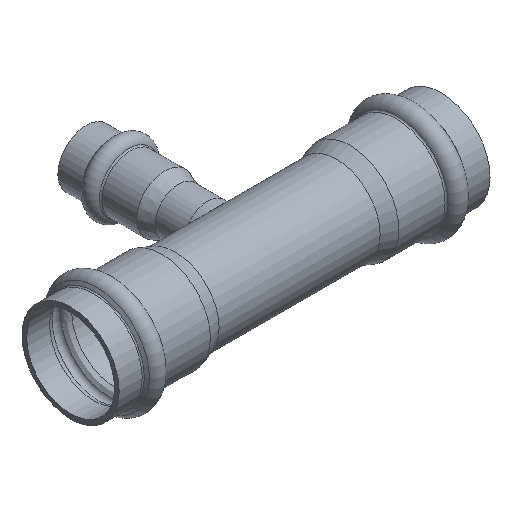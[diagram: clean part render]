
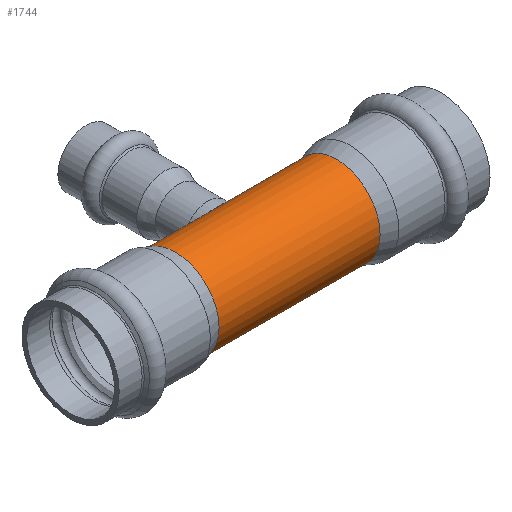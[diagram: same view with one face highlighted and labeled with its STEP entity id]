
A CAD part, isometric view. The second image highlights one B-rep face of the part: STEP entity #1744.
In plain terms, the highlighted cylindrical face has radius 14 mm (diameter 28 mm), a full revolution.
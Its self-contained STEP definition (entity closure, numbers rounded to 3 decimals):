
#1577=CARTESIAN_POINT('',(-59.5,11.535,-7.933));
#1578=VERTEX_POINT('',#1577);
#1640=CARTESIAN_POINT('',(-59.5,11.535,-7.933));
#1641=CARTESIAN_POINT('',(-59.5,11.535,-7.933));
#1642=CARTESIAN_POINT('',(-59.5,11.535,-7.933));
#1643=CARTESIAN_POINT('',(-59.5,11.535,-7.933));
#1644=CARTESIAN_POINT('',(-60.148,11.535,-7.933));
#1645=CARTESIAN_POINT('',(-61.121,11.609,-7.828));
#1646=CARTESIAN_POINT('',(-62.352,11.829,-7.491));
#1647=CARTESIAN_POINT('',(-63.518,12.111,-7.034));
#1648=CARTESIAN_POINT('',(-64.59,12.463,-6.4));
#1649=CARTESIAN_POINT('',(-65.513,12.824,-5.63));
#1650=CARTESIAN_POINT('',(-66.489,13.241,-4.616));
#1651=CARTESIAN_POINT('',(-67.293,13.634,-3.34));
#1652=CARTESIAN_POINT('',(-67.811,13.9,-1.804));
#1653=CARTESIAN_POINT('',(-68.008,14.004,-0.608));
#1654=CARTESIAN_POINT('',(-68.008,14.004,0.61));
#1655=CARTESIAN_POINT('',(-67.811,13.9,1.805));
#1656=CARTESIAN_POINT('',(-67.487,13.733,2.765));
#1657=CARTESIAN_POINT('',(-67.144,13.563,3.487));
#1658=CARTESIAN_POINT('',(-66.746,13.37,4.18));
#1659=CARTESIAN_POINT('',(-66.147,13.092,4.991));
#1660=CARTESIAN_POINT('',(-65.436,12.792,5.701));
#1661=CARTESIAN_POINT('',(-64.497,12.433,6.455));
#1662=CARTESIAN_POINT('',(-63.606,12.14,6.982));
#1663=CARTESIAN_POINT('',(-62.647,11.899,7.378));
#1664=CARTESIAN_POINT('',(-61.845,11.731,7.644));
#1665=CARTESIAN_POINT('',(-60.377,11.516,7.963));
#1666=CARTESIAN_POINT('',(-58.623,11.515,7.964));
#1667=CARTESIAN_POINT('',(-56.944,11.762,7.597));
#1668=CARTESIAN_POINT('',(-55.767,12.035,7.16));
#1669=CARTESIAN_POINT('',(-54.675,12.372,6.566));
#1670=CARTESIAN_POINT('',(-53.862,12.674,5.958));
#1671=CARTESIAN_POINT('',(-52.984,13.033,5.142));
#1672=CARTESIAN_POINT('',(-52.311,13.341,4.3));
#1673=CARTESIAN_POINT('',(-51.632,13.672,3.081));
#1674=CARTESIAN_POINT('',(-51.211,13.889,1.937));
#1675=CARTESIAN_POINT('',(-50.992,14.004,0.608));
#1676=CARTESIAN_POINT('',(-50.992,14.004,-0.609));
#1677=CARTESIAN_POINT('',(-51.189,13.9,-1.805));
#1678=CARTESIAN_POINT('',(-51.578,13.7,-2.957));
#1679=CARTESIAN_POINT('',(-52.135,13.425,-4.018));
#1680=CARTESIAN_POINT('',(-52.792,13.121,-4.909));
#1681=CARTESIAN_POINT('',(-53.491,12.822,-5.633));
#1682=CARTESIAN_POINT('',(-54.415,12.462,-6.403));
#1683=CARTESIAN_POINT('',(-55.482,12.111,-7.034));
#1684=CARTESIAN_POINT('',(-56.646,11.829,-7.49));
#1685=CARTESIAN_POINT('',(-57.88,11.609,-7.829));
#1686=CARTESIAN_POINT('',(-58.852,11.535,-7.933));
#1687=CARTESIAN_POINT('',(-59.5,11.535,-7.933));
#1688=B_SPLINE_CURVE_WITH_KNOTS('',3,(#1640,#1641,#1642,#1643,#1644,#1645,#1646,#1647,#1648,#1649,#1650,#1651,#1652,#1653,#1654,#1655,#1656,#1657,#1658,#1659,#1660,#1661,#1662,#1663,#1664,#1665,#1666,#1667,#1668,#1669,#1670,#1671,#1672,#1673,#1674,#1675,#1676,#1677,#1678,#1679,#1680,#1681,#1682,#1683,#1684,#1685,#1686,#1687),.UNSPECIFIED.,.T.,.U.,(4,3,1,1,1,1,1,1,1,1,1,1,1,1,1,1,1,1,1,1,1,1,1,1,1,1,1,1,1,1,1,1,1,1,1,1,1,1,1,1,1,1,1,4),(-4.629,-4.629,-4.464,-4.381,-4.298,-4.133,-4.05,-3.968,-3.747,-3.637,-3.527,-3.417,-3.306,-3.196,-3.141,-3.086,-2.976,-2.865,-2.81,-2.645,-2.59,-2.535,-2.425,-2.204,-2.094,-1.984,-1.874,-1.763,-1.708,-1.543,-1.469,-1.323,-1.212,-1.102,-0.992,-0.882,-0.771,-0.661,-0.579,-0.496,-0.331,-0.248,-0.165,0.),.UNSPECIFIED.);
#1689=EDGE_CURVE('',#1578,#1578,#1688,.T.);
#1714=CARTESIAN_POINT('',(-59.5,0.,0.0));
#1715=DIRECTION('',(1.0,0.,0.0));
#1716=DIRECTION('',(0.0,1.0,0.0));
#1717=AXIS2_PLACEMENT_3D('',#1714,#1715,#1716);
#1718=CYLINDRICAL_SURFACE('',#1717,14.);
#1719=CARTESIAN_POINT('',(-85.34,14.,0.0));
#1720=VERTEX_POINT('',#1719);
#1721=CARTESIAN_POINT('',(-85.34,0.,0.0));
#1722=DIRECTION('',(1.0,0.0,0.0));
#1723=DIRECTION('',(0.0,1.0,0.0));
#1724=AXIS2_PLACEMENT_3D('',#1721,#1722,#1723);
#1725=CIRCLE('',#1724,14.);
#1726=EDGE_CURVE('',#1720,#1720,#1725,.T.);
#1727=ORIENTED_EDGE('',*,*,#1726,.T.);
#1728=EDGE_LOOP('',(#1727));
#1729=FACE_OUTER_BOUND('',#1728,.T.);
#1730=CARTESIAN_POINT('',(-33.66,14.,0.0));
#1731=VERTEX_POINT('',#1730);
#1732=CARTESIAN_POINT('',(-33.66,0.,0.0));
#1733=DIRECTION('',(1.0,0.0,0.0));
#1734=DIRECTION('',(0.0,1.0,0.0));
#1735=AXIS2_PLACEMENT_3D('',#1732,#1733,#1734);
#1736=CIRCLE('',#1735,14.);
#1737=EDGE_CURVE('',#1731,#1731,#1736,.T.);
#1738=ORIENTED_EDGE('',*,*,#1737,.F.);
#1739=EDGE_LOOP('',(#1738));
#1740=FACE_BOUND('',#1739,.T.);
#1741=ORIENTED_EDGE('',*,*,#1689,.F.);
#1742=EDGE_LOOP('',(#1741));
#1743=FACE_BOUND('',#1742,.T.);
#1744=ADVANCED_FACE('',(#1729,#1740,#1743),#1718,.T.);
